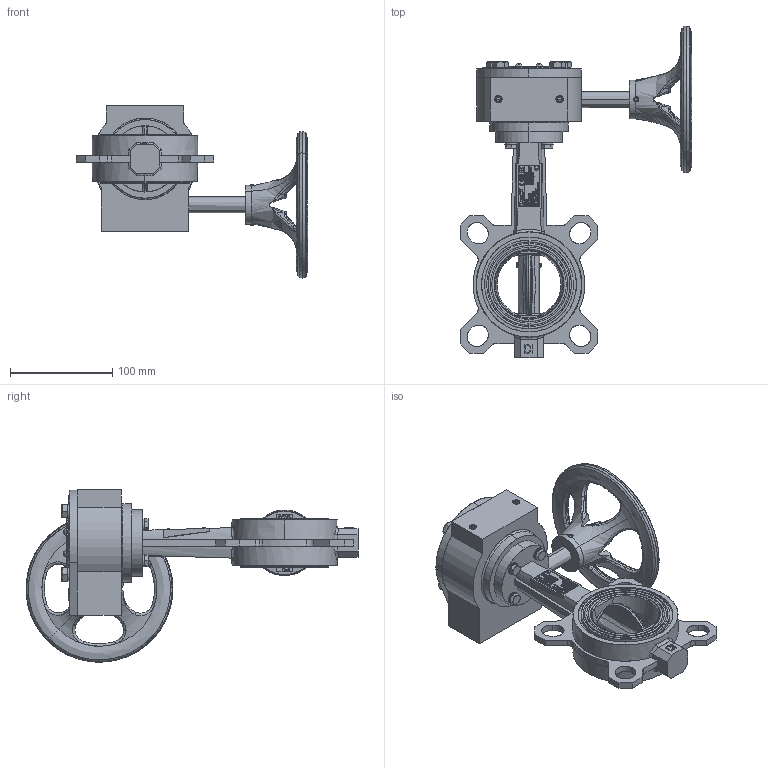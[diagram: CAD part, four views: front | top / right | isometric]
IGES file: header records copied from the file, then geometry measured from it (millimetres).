
Start section: SolidWorks IGES file using analytic representation for surfaces
Global section: file name: H:\BE FABRICATION\BE SERIE\VP\VP SERIE\F072 VPG\plan 3D\VPG-08\WAFER\DN65\VPG444X-08XX0065.igs; native system: SolidWorks 2020; preprocessor: SolidWorks 2020; author: k.gigout; date: 220630.102523; units: millimetre
Bounding box: 226.74 x 325.49 x 168.99 mm (x, y, z)
Surface area: 181439.3 mm2 (no closed solid volume)
Topology: 0 solids, 0 shells, 949 faces, 21865 edges, 21853 vertices
Faces by surface type: bspline 729, revolution 220
